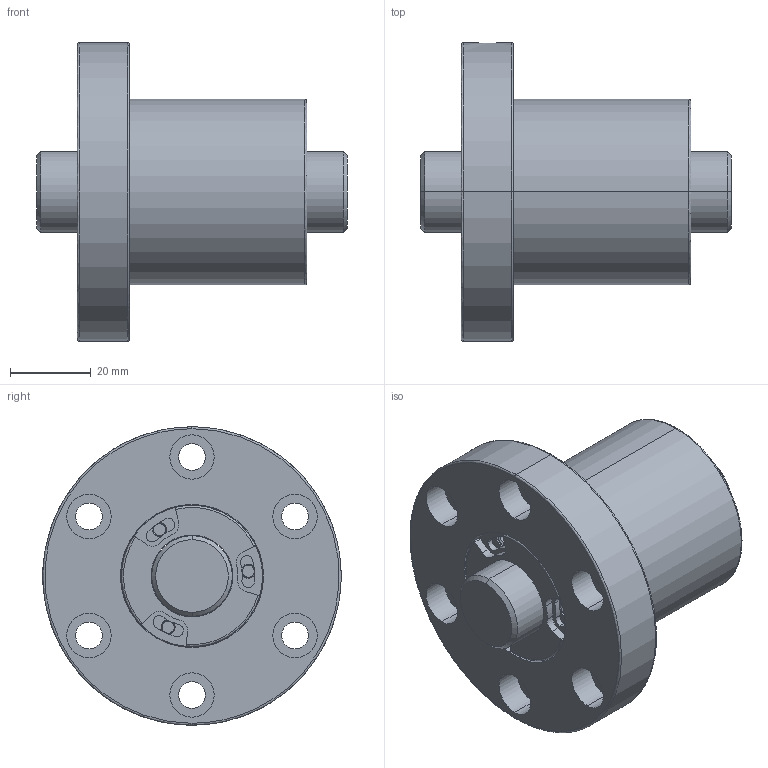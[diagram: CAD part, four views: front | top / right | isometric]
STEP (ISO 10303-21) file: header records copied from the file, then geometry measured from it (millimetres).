
FILE_DESCRIPTION (( 'STEP AP203' ), '1' );
FILE_NAME ('SFVSR02010C1N-C.STEP', '2020-06-17T05:05:26', ( '' ), ( '' ), 'SwSTEP 2.0', 'SolidWorks 2013', '' );
FILE_SCHEMA (( 'CONFIG_CONTROL_DESIGN' ));
Length unit declared in the file: millimetre
Products named in the file (1): SFVSR02010C1N-C
Bounding box: 77 x 74 x 74 mm (x, y, z)
Volume: 125344.4 mm3; surface area: 31053 mm2
Topology: 2 solids, 2 shells, 250 faces, 618 edges, 398 vertices
Faces by surface type: cylinder 144, plane 76, cone 16, bspline 14
Entity records: 8448 total; most frequent: CARTESIAN_POINT 2188, DIRECTION 1428, ORIENTED_EDGE 1236, EDGE_CURVE 618, AXIS2_PLACEMENT_3D 611, VERTEX_POINT 398, CIRCLE 374, EDGE_LOOP 294
